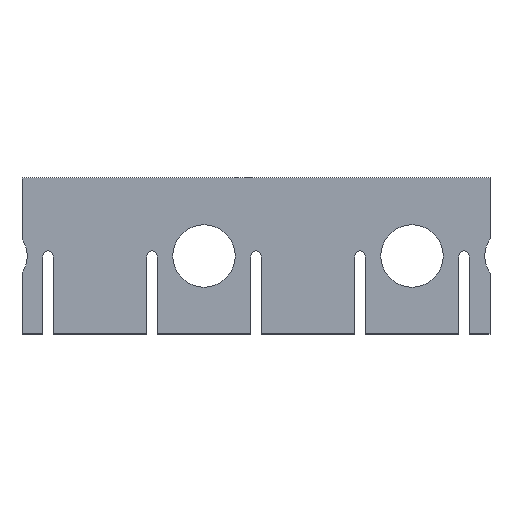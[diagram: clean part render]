
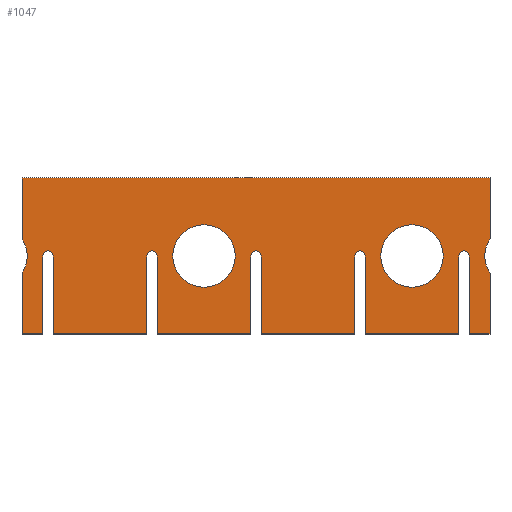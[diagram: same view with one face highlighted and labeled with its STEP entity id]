
A CAD part, top view. The second image highlights one B-rep face of the part: STEP entity #1047.
In plain terms, the highlighted planar face has unit normal (0, 0, 1).
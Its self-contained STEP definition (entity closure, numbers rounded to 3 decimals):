
#73=CARTESIAN_POINT('',(130.175,47.625,6.35));
#74=VERTEX_POINT('',#73);
#75=CARTESIAN_POINT('',(111.125,47.625,6.35));
#76=DIRECTION('',(0.0,0.0,-1.0));
#77=DIRECTION('',(-1.0,0.0,0.0));
#78=AXIS2_PLACEMENT_3D('',#75,#76,#77);
#79=CIRCLE('',#78,19.05);
#80=EDGE_CURVE('',#74,#74,#79,.T.);
#101=CARTESIAN_POINT('',(257.175,47.625,6.35));
#102=VERTEX_POINT('',#101);
#103=CARTESIAN_POINT('',(238.125,47.625,6.35));
#104=DIRECTION('',(0.0,0.0,-1.0));
#105=DIRECTION('',(-1.0,0.0,0.0));
#106=AXIS2_PLACEMENT_3D('',#103,#104,#105);
#107=CIRCLE('',#106,19.05);
#108=EDGE_CURVE('',#102,#102,#107,.T.);
#139=CARTESIAN_POINT('',(146.05,0.0,6.35));
#140=VERTEX_POINT('',#139);
#147=CARTESIAN_POINT('',(146.05,47.625,6.35));
#148=VERTEX_POINT('',#147);
#149=CARTESIAN_POINT('',(146.05,47.625,6.35));
#150=DIRECTION('',(0.0,-1.0,0.0));
#151=VECTOR('',#150,47.625);
#152=LINE('',#149,#151);
#153=EDGE_CURVE('',#148,#140,#152,.T.);
#179=CARTESIAN_POINT('',(139.7,47.625,6.35));
#180=VERTEX_POINT('',#179);
#181=CARTESIAN_POINT('',(142.875,47.625,6.35));
#182=DIRECTION('',(0.0,0.0,-1.0));
#183=DIRECTION('',(-1.0,0.0,0.0));
#184=AXIS2_PLACEMENT_3D('',#181,#182,#183);
#185=CIRCLE('',#184,3.175);
#186=EDGE_CURVE('',#180,#148,#185,.T.);
#211=CARTESIAN_POINT('',(139.7,0.0,6.35));
#212=VERTEX_POINT('',#211);
#213=CARTESIAN_POINT('',(139.7,0.0,6.35));
#214=DIRECTION('',(0.0,1.0,0.0));
#215=VECTOR('',#214,47.625);
#216=LINE('',#213,#215);
#217=EDGE_CURVE('',#212,#180,#216,.T.);
#242=CARTESIAN_POINT('',(82.55,0.0,6.35));
#243=VERTEX_POINT('',#242);
#244=CARTESIAN_POINT('',(82.55,0.0,6.35));
#245=DIRECTION('',(1.0,0.0,0.0));
#246=VECTOR('',#245,57.15);
#247=LINE('',#244,#246);
#248=EDGE_CURVE('',#243,#212,#247,.T.);
#273=CARTESIAN_POINT('',(82.55,47.625,6.35));
#274=VERTEX_POINT('',#273);
#275=CARTESIAN_POINT('',(82.55,47.625,6.35));
#276=DIRECTION('',(0.0,-1.0,0.0));
#277=VECTOR('',#276,47.625);
#278=LINE('',#275,#277);
#279=EDGE_CURVE('',#274,#243,#278,.T.);
#305=CARTESIAN_POINT('',(76.2,47.625,6.35));
#306=VERTEX_POINT('',#305);
#307=CARTESIAN_POINT('',(79.375,47.625,6.35));
#308=DIRECTION('',(0.0,0.0,-1.0));
#309=DIRECTION('',(-1.0,0.0,0.0));
#310=AXIS2_PLACEMENT_3D('',#307,#308,#309);
#311=CIRCLE('',#310,3.175);
#312=EDGE_CURVE('',#306,#274,#311,.T.);
#337=CARTESIAN_POINT('',(76.2,0.0,6.35));
#338=VERTEX_POINT('',#337);
#339=CARTESIAN_POINT('',(76.2,0.0,6.35));
#340=DIRECTION('',(0.0,1.0,0.0));
#341=VECTOR('',#340,47.625);
#342=LINE('',#339,#341);
#343=EDGE_CURVE('',#338,#306,#342,.T.);
#368=CARTESIAN_POINT('',(19.05,0.0,6.35));
#369=VERTEX_POINT('',#368);
#370=CARTESIAN_POINT('',(19.05,0.0,6.35));
#371=DIRECTION('',(1.0,0.0,0.0));
#372=VECTOR('',#371,57.15);
#373=LINE('',#370,#372);
#374=EDGE_CURVE('',#369,#338,#373,.T.);
#399=CARTESIAN_POINT('',(19.05,47.625,6.35));
#400=VERTEX_POINT('',#399);
#401=CARTESIAN_POINT('',(19.05,47.625,6.35));
#402=DIRECTION('',(0.0,-1.0,0.0));
#403=VECTOR('',#402,47.625);
#404=LINE('',#401,#403);
#405=EDGE_CURVE('',#400,#369,#404,.T.);
#431=CARTESIAN_POINT('',(12.7,47.625,6.35));
#432=VERTEX_POINT('',#431);
#433=CARTESIAN_POINT('',(15.875,47.625,6.35));
#434=DIRECTION('',(0.0,0.0,-1.0));
#435=DIRECTION('',(-1.0,0.0,0.0));
#436=AXIS2_PLACEMENT_3D('',#433,#434,#435);
#437=CIRCLE('',#436,3.175);
#438=EDGE_CURVE('',#432,#400,#437,.T.);
#463=CARTESIAN_POINT('',(12.7,0.0,6.35));
#464=VERTEX_POINT('',#463);
#465=CARTESIAN_POINT('',(12.7,0.0,6.35));
#466=DIRECTION('',(0.0,1.0,0.0));
#467=VECTOR('',#466,47.625);
#468=LINE('',#465,#467);
#469=EDGE_CURVE('',#464,#432,#468,.T.);
#494=CARTESIAN_POINT('',(0.0,0.0,6.35));
#495=VERTEX_POINT('',#494);
#496=CARTESIAN_POINT('',(0.0,0.0,6.35));
#497=DIRECTION('',(1.0,0.0,0.0));
#498=VECTOR('',#497,12.7);
#499=LINE('',#496,#498);
#500=EDGE_CURVE('',#495,#464,#499,.T.);
#525=CARTESIAN_POINT('',(0.,37.095,6.35));
#526=VERTEX_POINT('',#525);
#527=CARTESIAN_POINT('',(0.,37.095,6.35));
#528=DIRECTION('',(0.0,-1.0,0.0));
#529=VECTOR('',#528,37.095);
#530=LINE('',#527,#529);
#531=EDGE_CURVE('',#526,#495,#530,.T.);
#557=CARTESIAN_POINT('',(0.0,58.155,6.35));
#558=VERTEX_POINT('',#557);
#559=CARTESIAN_POINT('',(-15.875,47.625,6.35));
#560=DIRECTION('',(0.0,0.0,-1.0));
#561=DIRECTION('',(-0.833,0.553,0.0));
#562=AXIS2_PLACEMENT_3D('',#559,#560,#561);
#563=CIRCLE('',#562,19.05);
#564=EDGE_CURVE('',#558,#526,#563,.T.);
#589=CARTESIAN_POINT('',(0.0,95.25,6.35));
#590=VERTEX_POINT('',#589);
#591=CARTESIAN_POINT('',(0.0,95.25,6.35));
#592=DIRECTION('',(0.0,-1.0,0.0));
#593=VECTOR('',#592,37.095);
#594=LINE('',#591,#593);
#595=EDGE_CURVE('',#590,#558,#594,.T.);
#622=CARTESIAN_POINT('',(273.05,47.625,6.35));
#623=VERTEX_POINT('',#622);
#630=CARTESIAN_POINT('',(266.7,47.625,6.35));
#631=VERTEX_POINT('',#630);
#632=CARTESIAN_POINT('',(269.875,47.625,6.35));
#633=DIRECTION('',(0.0,0.0,-1.0));
#634=DIRECTION('',(-1.0,0.0,0.0));
#635=AXIS2_PLACEMENT_3D('',#632,#633,#634);
#636=CIRCLE('',#635,3.175);
#637=EDGE_CURVE('',#631,#623,#636,.T.);
#662=CARTESIAN_POINT('',(266.7,0.0,6.35));
#663=VERTEX_POINT('',#662);
#664=CARTESIAN_POINT('',(266.7,0.0,6.35));
#665=DIRECTION('',(0.0,1.0,0.0));
#666=VECTOR('',#665,47.625);
#667=LINE('',#664,#666);
#668=EDGE_CURVE('',#663,#631,#667,.T.);
#693=CARTESIAN_POINT('',(209.55,0.0,6.35));
#694=VERTEX_POINT('',#693);
#695=CARTESIAN_POINT('',(209.55,0.0,6.35));
#696=DIRECTION('',(1.0,0.0,0.0));
#697=VECTOR('',#696,57.15);
#698=LINE('',#695,#697);
#699=EDGE_CURVE('',#694,#663,#698,.T.);
#724=CARTESIAN_POINT('',(209.55,47.625,6.35));
#725=VERTEX_POINT('',#724);
#726=CARTESIAN_POINT('',(209.55,47.625,6.35));
#727=DIRECTION('',(0.0,-1.0,0.0));
#728=VECTOR('',#727,47.625);
#729=LINE('',#726,#728);
#730=EDGE_CURVE('',#725,#694,#729,.T.);
#756=CARTESIAN_POINT('',(203.2,47.625,6.35));
#757=VERTEX_POINT('',#756);
#758=CARTESIAN_POINT('',(206.375,47.625,6.35));
#759=DIRECTION('',(0.0,0.0,-1.0));
#760=DIRECTION('',(-1.0,0.0,0.0));
#761=AXIS2_PLACEMENT_3D('',#758,#759,#760);
#762=CIRCLE('',#761,3.175);
#763=EDGE_CURVE('',#757,#725,#762,.T.);
#788=CARTESIAN_POINT('',(203.2,0.0,6.35));
#789=VERTEX_POINT('',#788);
#790=CARTESIAN_POINT('',(203.2,0.0,6.35));
#791=DIRECTION('',(0.0,1.0,0.0));
#792=VECTOR('',#791,47.625);
#793=LINE('',#790,#792);
#794=EDGE_CURVE('',#789,#757,#793,.T.);
#820=CARTESIAN_POINT('',(285.75,95.25,6.35));
#821=VERTEX_POINT('',#820);
#828=CARTESIAN_POINT('',(285.75,58.155,6.35));
#829=VERTEX_POINT('',#828);
#830=CARTESIAN_POINT('',(285.75,58.155,6.35));
#831=DIRECTION('',(0.0,1.0,0.0));
#832=VECTOR('',#831,37.095);
#833=LINE('',#830,#832);
#834=EDGE_CURVE('',#829,#821,#833,.T.);
#860=CARTESIAN_POINT('',(285.75,37.095,6.35));
#861=VERTEX_POINT('',#860);
#862=CARTESIAN_POINT('',(301.625,47.625,6.35));
#863=DIRECTION('',(0.0,0.0,-1.0));
#864=DIRECTION('',(0.833,-0.553,0.0));
#865=AXIS2_PLACEMENT_3D('',#862,#863,#864);
#866=CIRCLE('',#865,19.05);
#867=EDGE_CURVE('',#861,#829,#866,.T.);
#892=CARTESIAN_POINT('',(285.75,0.0,6.35));
#893=VERTEX_POINT('',#892);
#894=CARTESIAN_POINT('',(285.75,0.0,6.35));
#895=DIRECTION('',(0.0,1.0,0.0));
#896=VECTOR('',#895,37.095);
#897=LINE('',#894,#896);
#898=EDGE_CURVE('',#893,#861,#897,.T.);
#923=CARTESIAN_POINT('',(273.05,0.0,6.35));
#924=VERTEX_POINT('',#923);
#925=CARTESIAN_POINT('',(273.05,0.0,6.35));
#926=DIRECTION('',(1.0,0.0,0.0));
#927=VECTOR('',#926,12.7);
#928=LINE('',#925,#927);
#929=EDGE_CURVE('',#924,#893,#928,.T.);
#952=CARTESIAN_POINT('',(273.05,47.625,6.35));
#953=DIRECTION('',(0.0,-1.0,0.0));
#954=VECTOR('',#953,47.625);
#955=LINE('',#952,#954);
#956=EDGE_CURVE('',#623,#924,#955,.T.);
#974=CARTESIAN_POINT('',(146.05,0.0,6.35));
#975=DIRECTION('',(1.0,0.0,0.0));
#976=VECTOR('',#975,57.15);
#977=LINE('',#974,#976);
#978=EDGE_CURVE('',#140,#789,#977,.T.);
#996=CARTESIAN_POINT('',(285.75,95.25,6.35));
#997=DIRECTION('',(-1.0,0.0,0.0));
#998=VECTOR('',#997,285.75);
#999=LINE('',#996,#998);
#1000=EDGE_CURVE('',#821,#590,#999,.T.);
#1006=CARTESIAN_POINT('',(174.625,47.625,6.35));
#1007=DIRECTION('',(0.0,0.0,1.0));
#1008=DIRECTION('',(1.0,0.0,0.0));
#1009=AXIS2_PLACEMENT_3D('',#1006,#1007,#1008);
#1010=PLANE('',#1009);
#1011=ORIENTED_EDGE('',*,*,#1000,.T.);
#1012=ORIENTED_EDGE('',*,*,#595,.T.);
#1013=ORIENTED_EDGE('',*,*,#564,.T.);
#1014=ORIENTED_EDGE('',*,*,#531,.T.);
#1015=ORIENTED_EDGE('',*,*,#500,.T.);
#1016=ORIENTED_EDGE('',*,*,#469,.T.);
#1017=ORIENTED_EDGE('',*,*,#438,.T.);
#1018=ORIENTED_EDGE('',*,*,#405,.T.);
#1019=ORIENTED_EDGE('',*,*,#374,.T.);
#1020=ORIENTED_EDGE('',*,*,#343,.T.);
#1021=ORIENTED_EDGE('',*,*,#312,.T.);
#1022=ORIENTED_EDGE('',*,*,#279,.T.);
#1023=ORIENTED_EDGE('',*,*,#248,.T.);
#1024=ORIENTED_EDGE('',*,*,#217,.T.);
#1025=ORIENTED_EDGE('',*,*,#186,.T.);
#1026=ORIENTED_EDGE('',*,*,#153,.T.);
#1027=ORIENTED_EDGE('',*,*,#978,.T.);
#1028=ORIENTED_EDGE('',*,*,#794,.T.);
#1029=ORIENTED_EDGE('',*,*,#763,.T.);
#1030=ORIENTED_EDGE('',*,*,#730,.T.);
#1031=ORIENTED_EDGE('',*,*,#699,.T.);
#1032=ORIENTED_EDGE('',*,*,#668,.T.);
#1033=ORIENTED_EDGE('',*,*,#637,.T.);
#1034=ORIENTED_EDGE('',*,*,#956,.T.);
#1035=ORIENTED_EDGE('',*,*,#929,.T.);
#1036=ORIENTED_EDGE('',*,*,#898,.T.);
#1037=ORIENTED_EDGE('',*,*,#867,.T.);
#1038=ORIENTED_EDGE('',*,*,#834,.T.);
#1039=EDGE_LOOP('',(#1011,#1012,#1013,#1014,#1015,#1016,#1017,#1018,#1019,#1020,#1021,#1022,#1023,#1024,#1025,#1026,#1027,#1028,#1029,#1030,#1031,#1032,#1033,#1034,#1035,#1036,#1037,#1038));
#1040=FACE_OUTER_BOUND('',#1039,.T.);
#1041=ORIENTED_EDGE('',*,*,#80,.T.);
#1042=EDGE_LOOP('',(#1041));
#1043=FACE_BOUND('',#1042,.T.);
#1044=ORIENTED_EDGE('',*,*,#108,.T.);
#1045=EDGE_LOOP('',(#1044));
#1046=FACE_BOUND('',#1045,.T.);
#1047=ADVANCED_FACE('',(#1040,#1043,#1046),#1010,.T.);
